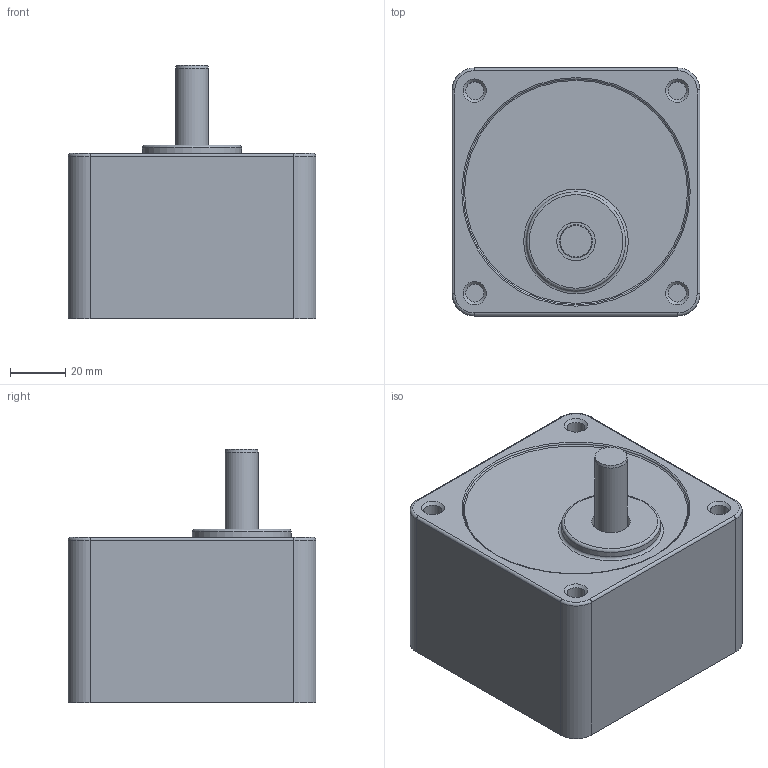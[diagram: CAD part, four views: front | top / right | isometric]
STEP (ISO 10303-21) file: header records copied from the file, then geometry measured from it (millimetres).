
FILE_DESCRIPTION((''),'2;1');
FILE_NAME('D:\STP파일\GEAR HEAD\40W\S9SB20~200.stp','2013-05-20T19:16:12',('leebh'),(''),'Autodesk Inventor 2011','Autodesk Inventor 2011','');
FILE_SCHEMA(('AUTOMOTIVE_DESIGN { 1 0 10303 214 1 1 1 1 }'));
Length unit declared in the file: millimetre
Products named in the file (1): S9I90G-T1
Bounding box: 90 x 90 x 92 mm (x, y, z)
Volume: 437060.5 mm3; surface area: 44539 mm2
Topology: 1 solids, 1 shells, 46 faces, 86 edges, 52 vertices
Faces by surface type: cylinder 17, plane 16, torus 8, cone 5
Full cylindrical faces by diameter (mm): 6.5 x4, 9 x1, 12 x1, 14 x1, 36 x1, 83 x1
Entity records: 1086 total; most frequent: DIRECTION 210, CARTESIAN_POINT 167, ORIENTED_EDGE 136, AXIS2_PLACEMENT_3D 95, EDGE_LOOP 74, EDGE_CURVE 68, VERTEX_POINT 52, CIRCLE 48
